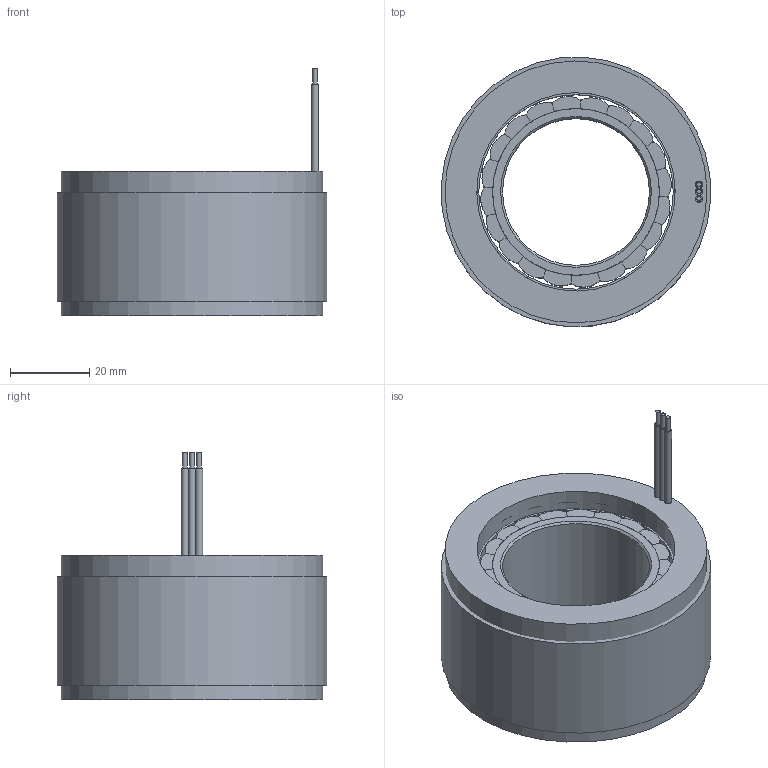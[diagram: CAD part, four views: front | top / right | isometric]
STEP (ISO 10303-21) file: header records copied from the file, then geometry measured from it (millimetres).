
FILE_DESCRIPTION (( 'STEP AP214' ), '1' );
FILE_NAME ('6826萇儂.STEP', '2024-01-17T05:52:08', ( '' ), ( '' ), 'SwSTEP 2.0', 'SolidWorks 2022', '' );
FILE_SCHEMA (( 'AUTOMOTIVE_DESIGN' ));
Length unit declared in the file: millimetre
Products named in the file (1): 6826萇儂
Bounding box: 67.9 x 67.9 x 62.4 mm (x, y, z)
Volume: 110211.3 mm3; surface area: 87880.8 mm2
Topology: 45 solids, 45 shells, 666 faces, 1711 edges, 1141 vertices
Faces by surface type: plane 370, cylinder 294, cone 2
Full cylindrical faces by diameter (mm): 1.15 x6, 1.8 x3, 37 x1, 42 x1, 49 x1, 50 x1, 64.4 x1, 66 x1, 68 x1
Entity records: 28100 total; most frequent: DIRECTION 3614, CARTESIAN_POINT 3495, ORIENTED_EDGE 3380, EDGE_CURVE 1690, AXIS2_PLACEMENT_3D 1257, VERTEX_POINT 1138, VECTOR 1100, LINE 1100
